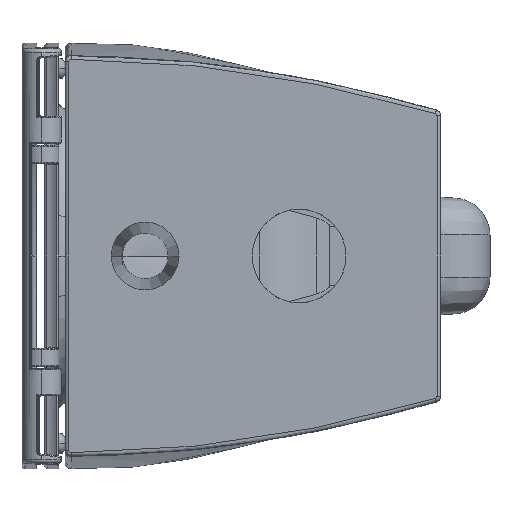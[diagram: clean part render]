
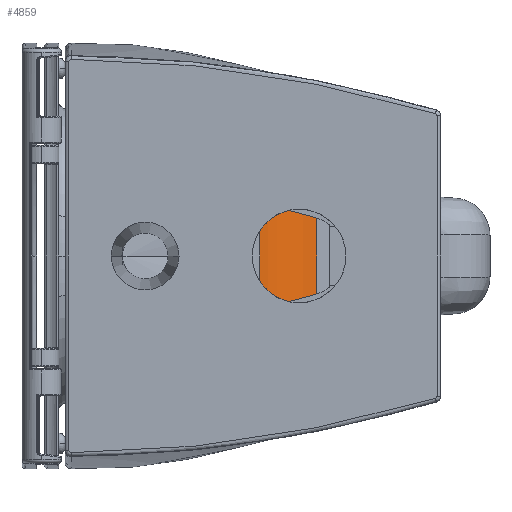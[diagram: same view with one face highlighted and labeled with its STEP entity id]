
A CAD part, left-side view. The second image highlights one B-rep face of the part: STEP entity #4859.
In plain terms, the highlighted cylindrical face has radius 70 mm (diameter 140 mm), a partial arc.
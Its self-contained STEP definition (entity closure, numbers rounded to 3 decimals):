
#427 = EDGE_CURVE ( 'NONE', #31670, #23344, #34657, .T. ) ;
#872 = ORIENTED_EDGE ( 'NONE', *, *, #28515, .F. ) ;
#4558 = DIRECTION ( 'NONE',  ( 0., 0., -1. ) ) ;
#4859 = ADVANCED_FACE ( 'NONE', ( #22503 ), #12871, .F. ) ;
#5940 = CARTESIAN_POINT ( 'NONE',  ( 163.231, -210.278, -23.546 ) ) ;
#6065 = VECTOR ( 'NONE', #4558, 1000. ) ;
#6819 = LINE ( 'NONE', #17115, #6065 ) ;
#6934 = CARTESIAN_POINT ( 'NONE',  ( 209.858, -158.067, -48.047 ) ) ;
#7416 = ORIENTED_EDGE ( 'NONE', *, *, #427, .F. ) ;
#8891 = VECTOR ( 'NONE', #38233, 1000. ) ;
#11292 = CARTESIAN_POINT ( 'NONE',  ( 231.393, -186.208, -46.079 ) ) ;
#11413 = EDGE_CURVE ( 'NONE', #41896, #23344, #14628, .T. ) ;
#12871 = CYLINDRICAL_SURFACE ( 'NONE', #25690, 70. ) ;
#13735 = CARTESIAN_POINT ( 'NONE',  ( 209.858, -158.067, 48.047 ) ) ;
#14628 =( BOUNDED_CURVE ( )  B_SPLINE_CURVE ( 3, ( #20675, #27370, #17101, #13735 ),
 .UNSPECIFIED., .F., .T. ) 
 B_SPLINE_CURVE_WITH_KNOTS ( ( 4, 4 ),
 ( 1.658, 2.413 ),
 .UNSPECIFIED. ) 
 CURVE ( )  GEOMETRIC_REPRESENTATION_ITEM ( )  RATIONAL_B_SPLINE_CURVE ( ( 1., 0.953, 0.953, 1. ) ) 
 REPRESENTATION_ITEM ( '' )  );
#15277 = ORIENTED_EDGE ( 'NONE', *, *, #25292, .F. ) ;
#17101 = CARTESIAN_POINT ( 'NONE',  ( 223.312, -170.082, 47.207 ) ) ;
#17115 = CARTESIAN_POINT ( 'NONE',  ( 232.965, -204.177, -47.093 ) ) ;
#19589 = DIRECTION ( 'NONE',  ( 1., 0., 0. ) ) ;
#20234 = EDGE_LOOP ( 'NONE', ( #15277, #872, #40171, #7416 ) ) ;
#20675 = CARTESIAN_POINT ( 'NONE',  ( 232.965, -204.177, 44.823 ) ) ;
#22503 = FACE_OUTER_BOUND ( 'NONE', #20234, .T. ) ;
#23344 = VERTEX_POINT ( 'NONE', #40639 ) ;
#24715 = CARTESIAN_POINT ( 'NONE',  ( 209.858, -158.067, -48.047 ) ) ;
#25292 = EDGE_CURVE ( 'NONE', #26720, #31670, #27548, .T. ) ;
#25690 = AXIS2_PLACEMENT_3D ( 'NONE', #5940, #36124, #19589 ) ;
#26720 = VERTEX_POINT ( 'NONE', #37473 ) ;
#27370 = CARTESIAN_POINT ( 'NONE',  ( 231.393, -186.208, 46.079 ) ) ;
#27548 =( BOUNDED_CURVE ( )  B_SPLINE_CURVE ( 3, ( #34772, #11292, #27848, #24715 ),
 .UNSPECIFIED., .F., .F. ) 
 B_SPLINE_CURVE_WITH_KNOTS ( ( 4, 4 ),
 ( 1.658, 2.413 ),
 .UNSPECIFIED. ) 
 CURVE ( )  GEOMETRIC_REPRESENTATION_ITEM ( )  RATIONAL_B_SPLINE_CURVE ( ( 1., 0.953, 0.953, 1. ) ) 
 REPRESENTATION_ITEM ( '' )  );
#27848 = CARTESIAN_POINT ( 'NONE',  ( 223.312, -170.082, -47.207 ) ) ;
#28515 = EDGE_CURVE ( 'NONE', #41896, #26720, #6819, .T. ) ;
#31670 = VERTEX_POINT ( 'NONE', #41461 ) ;
#34657 = LINE ( 'NONE', #6934, #8891 ) ;
#34772 = CARTESIAN_POINT ( 'NONE',  ( 232.965, -204.177, -44.823 ) ) ;
#36124 = DIRECTION ( 'NONE',  ( 0., 0., 1. ) ) ;
#37473 = CARTESIAN_POINT ( 'NONE',  ( 232.965, -204.177, -44.823 ) ) ;
#38233 = DIRECTION ( 'NONE',  ( 0., 0., 1. ) ) ;
#40171 = ORIENTED_EDGE ( 'NONE', *, *, #11413, .T. ) ;
#40639 = CARTESIAN_POINT ( 'NONE',  ( 209.858, -158.067, 48.047 ) ) ;
#41461 = CARTESIAN_POINT ( 'NONE',  ( 209.858, -158.067, -48.047 ) ) ;
#41896 = VERTEX_POINT ( 'NONE', #44210 ) ;
#44210 = CARTESIAN_POINT ( 'NONE',  ( 232.965, -204.177, 44.823 ) ) ;
